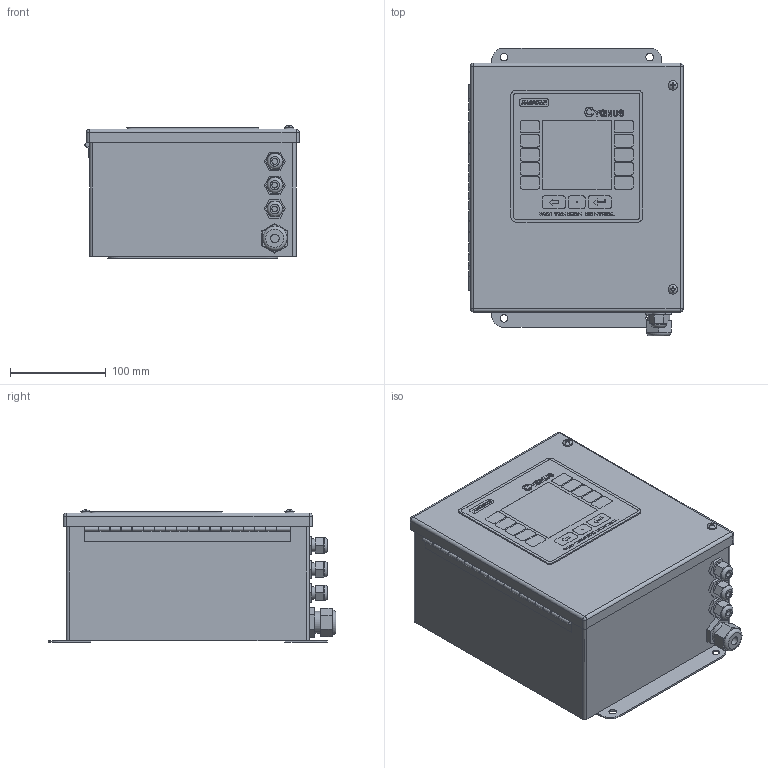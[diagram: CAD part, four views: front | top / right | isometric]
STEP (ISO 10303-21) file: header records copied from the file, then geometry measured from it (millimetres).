
FILE_DESCRIPTION((''),'2;1');
FILE_NAME('J:\WIP\Magpowr WEB\3D (Models)\Tension Controls\CYGNUS\Cygnus-E.stp','2012-10-25T09:34:45',('lzuniga'),(''),'Autodesk Inventor 2012','Autodesk Inventor 2012','');
FILE_SCHEMA(('AUTOMOTIVE_DESIGN { 1 0 10303 214 1 1 1 1 }'));
Length unit declared in the file: inch
Products named in the file (1): Cygnus-E
Bounding box: 223.9 x 300.99 x 138.84 mm (x, y, z)
Volume: 1218002.2 mm3; surface area: 479359.6 mm2
Topology: 1 solids, 1 shells, 849 faces, 2236 edges, 1480 vertices
Faces by surface type: plane 576, cylinder 139, bspline 125, sphere 5, torus 4
Full cylindrical faces by diameter (mm): 1.524 x1, 5.969 x3, 7.938 x4, 9.017 x1, 9.906 x2, 13.462 x3, 15.494 x3, 16.256 x3, 22.86 x2, 25.4 x1
Entity records: 27154 total; most frequent: CARTESIAN_POINT 6535, ORIENTED_EDGE 4406, DIRECTION 3687, EDGE_CURVE 2203, VECTOR 1649, LINE 1649, VERTEX_POINT 1468, AXIS2_PLACEMENT_3D 1019
